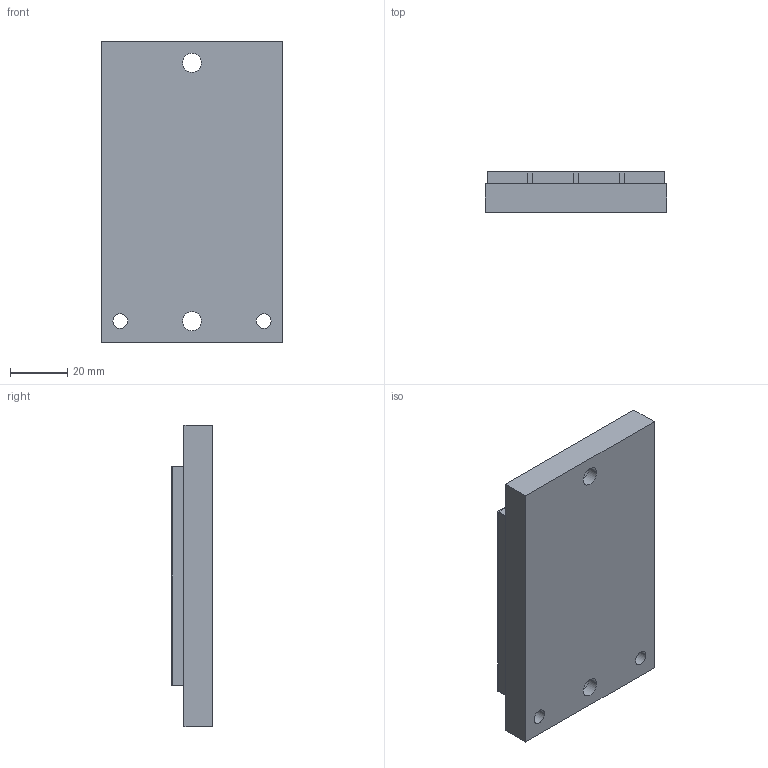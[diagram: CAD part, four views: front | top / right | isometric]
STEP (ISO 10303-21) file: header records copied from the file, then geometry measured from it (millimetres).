
FILE_DESCRIPTION((''),'2;1');
FILE_NAME('MC075-0064-WC','2007-01-14T',('saurabh.singhal'),(''),'PRO/ENGINEER BY PARAMETRIC TECHNOLOGY CORPORATION, 2005450','PRO/ENGINEER BY PARAMETRIC TECHNOLOGY CORPORATION, 2005450','');
FILE_SCHEMA(('CONFIG_CONTROL_DESIGN'));
Length unit declared in the file: millimetre
Products named in the file (1): MC075-0064-WC
Bounding box: 63.3 x 14.4 x 105 mm (x, y, z)
Volume: 83120 mm3; surface area: 30848.5 mm2
Topology: 1 solids, 1 shells, 48 faces, 120 edges, 80 vertices
Faces by surface type: plane 36, cylinder 12
Entity records: 1486 total; most frequent: CARTESIAN_POINT 248, DIRECTION 240, ORIENTED_EDGE 240, EDGE_CURVE 120, VECTOR 96, LINE 96, VERTEX_POINT 80, AXIS2_PLACEMENT_3D 72
